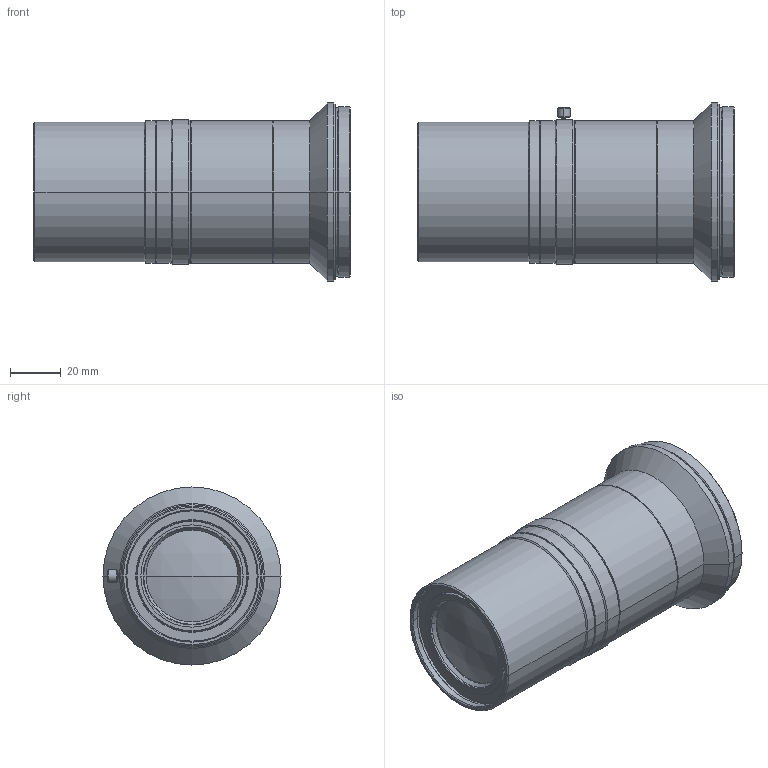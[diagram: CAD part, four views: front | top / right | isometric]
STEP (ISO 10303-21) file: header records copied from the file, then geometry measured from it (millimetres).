
FILE_DESCRIPTION (( 'STEP AP203' ), '1' );
FILE_NAME ('VS-L12040-2_M67S.STEP', '2018-09-21T07:12:10', ( '' ), ( '' ), 'SwSTEP 2.0', 'SolidWorks 2018', '' );
FILE_SCHEMA (( 'CONFIG_CONTROL_DESIGN' ));
Length unit declared in the file: millimetre
Products named in the file (1): VS-L12040-2_M67S
Bounding box: 124.5 x 70 x 70 mm (x, y, z)
Volume: 291870.6 mm3; surface area: 36470.5 mm2
Topology: 1 solids, 1 shells, 124 faces, 249 edges, 140 vertices
Faces by surface type: cone 66, cylinder 40, plane 14, sphere 4
Entity records: 3290 total; most frequent: DIRECTION 633, CARTESIAN_POINT 548, ORIENTED_EDGE 498, AXIS2_PLACEMENT_3D 263, EDGE_CURVE 249, VERTEX_POINT 140, CIRCLE 138, EDGE_LOOP 137
